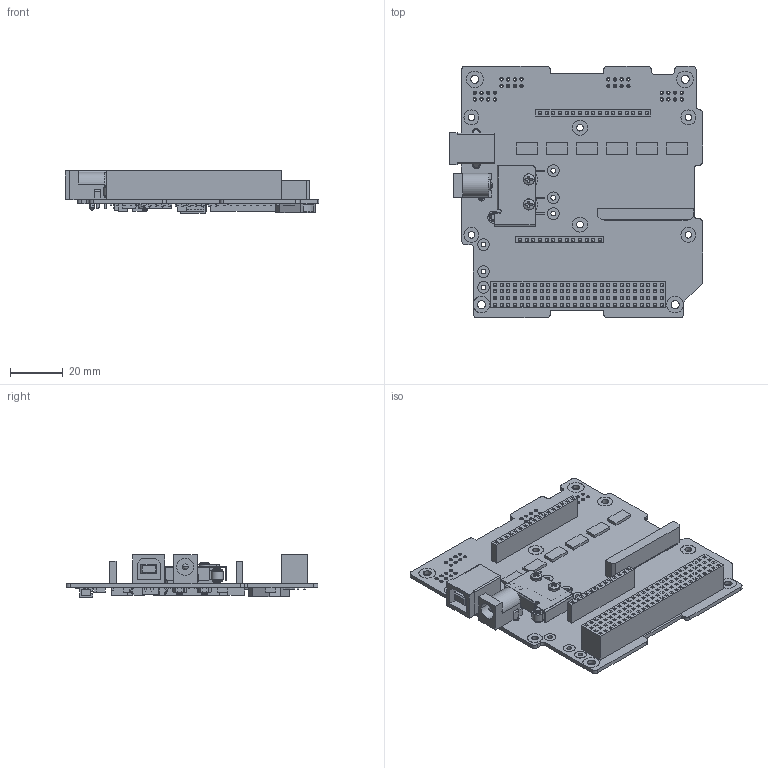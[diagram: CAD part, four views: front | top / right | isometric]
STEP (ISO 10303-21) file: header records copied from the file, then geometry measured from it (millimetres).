
FILE_DESCRIPTION (( 'STEP AP214' ), '1' );
FILE_NAME ('710-00484-D Motherboard Module Non-Stackthrough.STEP', '2017-11-10T17:21:35', ( '' ), ( '' ), 'SwSTEP 2.0', 'SolidWorks 2014', '' );
FILE_SCHEMA (( 'AUTOMOTIVE_DESIGN' ));
Length unit declared in the file: inch
Products named in the file (2): 710-00484-D Motherboard Module Non-Stackthrough
Bounding box: 96.48 x 95.89 x 16.19 mm (x, y, z)
Volume: 29964.2 mm3; surface area: 31052 mm2
Topology: 1 solids, 12 shells, 5574 faces, 13550 edges, 8555 vertices
Faces by surface type: plane 3891, cylinder 1447, cone 216, torus 12, sphere 6, bspline 2
Entity records: 189877 total; most frequent: CARTESIAN_POINT 28167, DIRECTION 27794, ORIENTED_EDGE 27092, EDGE_CURVE 13546, LINE 10310, VECTOR 10310, AXIS2_PLACEMENT_3D 8742, VERTEX_POINT 8553
